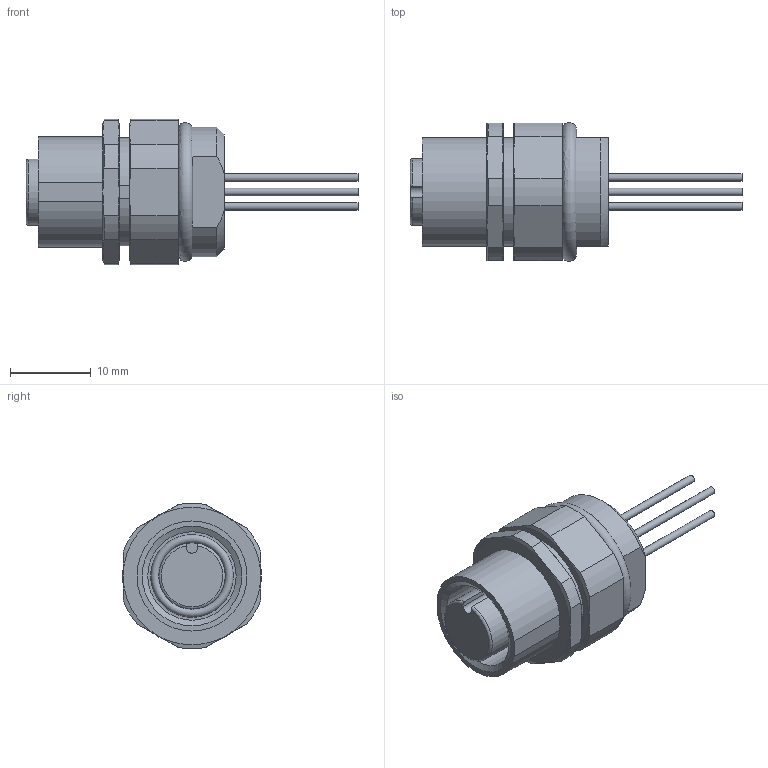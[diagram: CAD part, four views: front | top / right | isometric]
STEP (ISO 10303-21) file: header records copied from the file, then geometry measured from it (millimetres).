
FILE_DESCRIPTION( ( 'STEP AP203' ), '1' );
FILE_NAME( 'p:/temp/worker_7/temp/exporttempdir_780_454_ygKAK/format_4/E12408.stp', '2022-02-07T10:55:22', ( 'License CC BY-ND 4.0' ), ( 'CADENAS' ), ' ', 'PARTsolutions', ' ' );
FILE_SCHEMA( ( 'CONFIG_CONTROL_DESIGN' ) );
Length unit declared in the file: millimetre
Products named in the file (1): _E12408
Bounding box: 41 x 17.12 x 17.96 mm (x, y, z)
Volume: 3563.3 mm3; surface area: 3182.3 mm2
Topology: 1 solids, 1 shells, 98 faces, 236 edges, 152 vertices
Faces by surface type: plane 38, cylinder 32, cone 24, torus 4
Full cylindrical faces by diameter (mm): 0.93 x4, 0.94 x1, 10.917 x1, 11.5 x1, 15.2 x2
Entity records: 2980 total; most frequent: CARTESIAN_POINT 764, DIRECTION 452, ORIENTED_EDGE 426, EDGE_CURVE 213, AXIS2_PLACEMENT_3D 192, VERTEX_POINT 146, EDGE_LOOP 129, FACE_OUTER_BOUND 108
